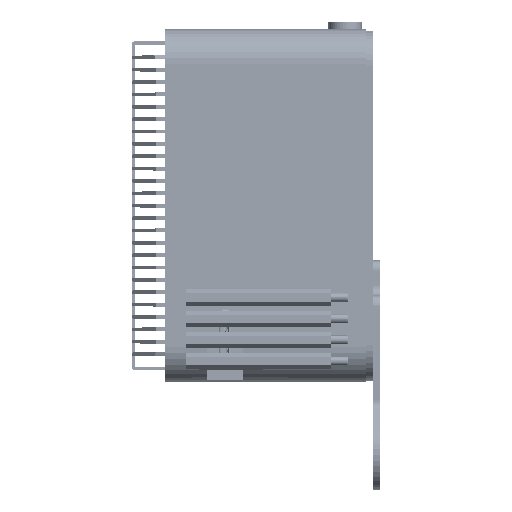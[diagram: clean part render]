
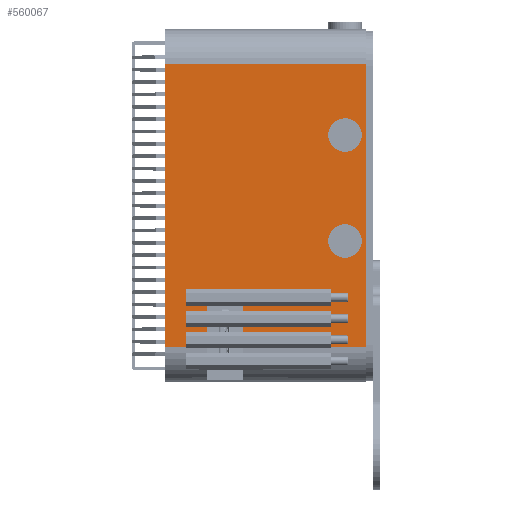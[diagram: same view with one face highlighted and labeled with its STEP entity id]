
A CAD part, left-side view. The second image highlights one B-rep face of the part: STEP entity #560067.
In plain terms, the highlighted planar face has unit normal (-1, 0, 0).
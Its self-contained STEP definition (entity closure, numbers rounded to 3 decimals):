
#555451=DIRECTION('',(0.,-1.,0.));
#555452=VECTOR('',#555451,57.);
#555453=CARTESIAN_POINT('',(0.,47.,-10.));
#555454=LINE('',#555453,#555452);
#555465=CARTESIAN_POINT('',(0.,26.5,-76.5));
#555466=DIRECTION('',(1.,0.,0.));
#555467=DIRECTION('',(0.,0.,1.));
#555468=AXIS2_PLACEMENT_3D('',#555465,#555466,#555467);
#555473=DIRECTION('',(0.,-1.,0.));
#555474=VECTOR('',#555473,7.);
#555475=CARTESIAN_POINT('',(0.,33.5,-75.));
#555476=LINE('',#555475,#555474);
#555480=CARTESIAN_POINT('',(0.,33.5,-76.5));
#555481=DIRECTION('',(1.,0.,0.));
#555482=DIRECTION('',(0.,1.,0.));
#555483=AXIS2_PLACEMENT_3D('',#555480,#555481,#555482);
#555488=DIRECTION('',(0.,0.,1.));
#555489=VECTOR('',#555488,13.5);
#555490=CARTESIAN_POINT('',(0.,35.,-90.));
#555491=LINE('',#555490,#555489);
#555495=DIRECTION('',(0.,0.,-1.));
#555496=VECTOR('',#555495,80.);
#555497=CARTESIAN_POINT('',(0.,47.,-10.));
#555498=LINE('',#555497,#555496);
#555502=DIRECTION('',(0.,0.,1.));
#555503=VECTOR('',#555502,80.);
#555504=CARTESIAN_POINT('',(0.,-10.,-90.));
#555505=LINE('',#555504,#555503);
#555509=DIRECTION('',(0.,0.,-1.));
#555510=VECTOR('',#555509,3.259);
#555511=CARTESIAN_POINT('',(0.,-6.725,-58.371));
#555512=LINE('',#555511,#555510);
#555516=CARTESIAN_POINT('',(0.,-4.,-60.));
#555517=DIRECTION('',(1.,0.,0.));
#555518=DIRECTION('',(0.,0.,1.));
#555519=AXIS2_PLACEMENT_3D('',#555516,#555517,#555518);
#555524=CARTESIAN_POINT('',(0.,-4.,-60.));
#555525=DIRECTION('',(1.,0.,0.));
#555526=DIRECTION('',(0.,0.,-1.));
#555527=AXIS2_PLACEMENT_3D('',#555524,#555525,#555526);
#555532=CARTESIAN_POINT('',(0.,-4.,-60.));
#555533=DIRECTION('',(1.,0.,0.));
#555534=DIRECTION('',(0.,-0.858,-0.513));
#555535=AXIS2_PLACEMENT_3D('',#555532,#555533,#555534);
#555540=DIRECTION('',(0.,0.,-1.));
#555541=VECTOR('',#555540,3.259);
#555542=CARTESIAN_POINT('',(0.,-6.725,-28.371));
#555543=LINE('',#555542,#555541);
#555547=CARTESIAN_POINT('',(0.,-4.,-30.));
#555548=DIRECTION('',(1.,0.,0.));
#555549=DIRECTION('',(0.,0.,1.));
#555550=AXIS2_PLACEMENT_3D('',#555547,#555548,#555549);
#555555=CARTESIAN_POINT('',(0.,-4.,-30.));
#555556=DIRECTION('',(1.,0.,0.));
#555557=DIRECTION('',(0.,0.,-1.));
#555558=AXIS2_PLACEMENT_3D('',#555555,#555556,#555557);
#555563=CARTESIAN_POINT('',(0.,-4.,-30.));
#555564=DIRECTION('',(1.,0.,0.));
#555565=DIRECTION('',(0.,-0.858,-0.513));
#555566=AXIS2_PLACEMENT_3D('',#555563,#555564,#555565);
#555578=DIRECTION('',(0.,1.,0.));
#555579=VECTOR('',#555578,12.);
#555580=CARTESIAN_POINT('',(0.,35.,-90.));
#555581=LINE('',#555580,#555579);
#555592=DIRECTION('',(0.,1.,0.));
#555593=VECTOR('',#555592,35.);
#555594=CARTESIAN_POINT('',(0.,-10.,-90.));
#555595=LINE('',#555594,#555593);
#558750=DIRECTION('',(0.,0.,1.));
#558751=VECTOR('',#558750,13.5);
#558752=CARTESIAN_POINT('',(0.,25.,-90.));
#558753=LINE('',#558752,#558751);
#559051=CARTESIAN_POINT('',(0.,-6.725,-58.371));
#559052=CARTESIAN_POINT('',(0.,-6.725,-61.629));
#559053=VERTEX_POINT('',#559051);
#559054=VERTEX_POINT('',#559052);
#559067=CARTESIAN_POINT('',(0.,-10.,-90.));
#559068=CARTESIAN_POINT('',(0.,-10.,-10.));
#559069=VERTEX_POINT('',#559067);
#559070=VERTEX_POINT('',#559068);
#559156=CARTESIAN_POINT('',(0.,47.,-90.));
#559158=VERTEX_POINT('',#559156);
#559175=CARTESIAN_POINT('',(0.,-4.,-33.175));
#559177=VERTEX_POINT('',#559175);
#559223=CARTESIAN_POINT('',(0.,26.5,-75.));
#559225=VERTEX_POINT('',#559223);
#559249=CARTESIAN_POINT('',(0.,35.,-76.5));
#559251=VERTEX_POINT('',#559249);
#559311=CARTESIAN_POINT('',(0.,25.,-76.5));
#559312=VERTEX_POINT('',#559311);
#559327=CARTESIAN_POINT('',(0.,-4.,-56.825));
#559329=VERTEX_POINT('',#559327);
#559359=CARTESIAN_POINT('',(0.,25.,-90.));
#559360=VERTEX_POINT('',#559359);
#559381=CARTESIAN_POINT('',(0.,35.,-90.));
#559382=VERTEX_POINT('',#559381);
#559383=CARTESIAN_POINT('',(0.,-6.725,-31.629));
#559384=VERTEX_POINT('',#559383);
#559395=CARTESIAN_POINT('',(0.,-6.725,-28.371));
#559396=VERTEX_POINT('',#559395);
#559399=CARTESIAN_POINT('',(0.,-4.,-26.825));
#559400=VERTEX_POINT('',#559399);
#559403=CARTESIAN_POINT('',(0.,47.,-10.));
#559404=VERTEX_POINT('',#559403);
#559437=CARTESIAN_POINT('',(0.,33.5,-75.));
#559438=VERTEX_POINT('',#559437);
#559439=CARTESIAN_POINT('',(0.,-4.,-63.175));
#559440=VERTEX_POINT('',#559439);
#560021=CARTESIAN_POINT('',(0.,48.,-90.));
#560022=DIRECTION('',(1.,0.,0.));
#560023=DIRECTION('',(0.,0.,-1.));
#560024=AXIS2_PLACEMENT_3D('',#560021,#560022,#560023);
#560025=PLANE('',#560024);
#560027=ORIENTED_EDGE('',*,*,#560026,.T.);
#560029=ORIENTED_EDGE('',*,*,#560028,.T.);
#560031=ORIENTED_EDGE('',*,*,#560030,.F.);
#560033=ORIENTED_EDGE('',*,*,#560032,.F.);
#560035=ORIENTED_EDGE('',*,*,#560034,.F.);
#560037=ORIENTED_EDGE('',*,*,#560036,.F.);
#560039=ORIENTED_EDGE('',*,*,#560038,.T.);
#560041=ORIENTED_EDGE('',*,*,#560040,.F.);
#560042=ORIENTED_EDGE('',*,*,#560011,.T.);
#560044=ORIENTED_EDGE('',*,*,#560043,.F.);
#560045=EDGE_LOOP('',(#560027,#560029,#560031,#560033,#560035,#560037,#560039,
#560041,#560042,#560044));
#560046=FACE_OUTER_BOUND('',#560045,.F.);
#560048=ORIENTED_EDGE('',*,*,#560047,.F.);
#560050=ORIENTED_EDGE('',*,*,#560049,.F.);
#560052=ORIENTED_EDGE('',*,*,#560051,.F.);
#560054=ORIENTED_EDGE('',*,*,#560053,.F.);
#560055=EDGE_LOOP('',(#560048,#560050,#560052,#560054));
#560056=FACE_BOUND('',#560055,.F.);
#560058=ORIENTED_EDGE('',*,*,#560057,.F.);
#560060=ORIENTED_EDGE('',*,*,#560059,.F.);
#560062=ORIENTED_EDGE('',*,*,#560061,.F.);
#560064=ORIENTED_EDGE('',*,*,#560063,.F.);
#560065=EDGE_LOOP('',(#560058,#560060,#560062,#560064));
#560066=FACE_BOUND('',#560065,.F.);
#555469=CIRCLE('',#555468,1.5);
#555484=CIRCLE('',#555483,1.5);
#555520=CIRCLE('',#555519,3.175);
#555528=CIRCLE('',#555527,3.175);
#555536=CIRCLE('',#555535,3.175);
#555551=CIRCLE('',#555550,3.175);
#555559=CIRCLE('',#555558,3.175);
#555567=CIRCLE('',#555566,3.175);
#560011=EDGE_CURVE('',#559404,#559070,#555454,.T.);
#560026=EDGE_CURVE('',#559069,#559360,#555595,.T.);
#560028=EDGE_CURVE('',#559360,#559312,#558753,.T.);
#560030=EDGE_CURVE('',#559225,#559312,#555469,.T.);
#560032=EDGE_CURVE('',#559438,#559225,#555476,.T.);
#560034=EDGE_CURVE('',#559251,#559438,#555484,.T.);
#560036=EDGE_CURVE('',#559382,#559251,#555491,.T.);
#560038=EDGE_CURVE('',#559382,#559158,#555581,.T.);
#560040=EDGE_CURVE('',#559404,#559158,#555498,.T.);
#560043=EDGE_CURVE('',#559069,#559070,#555505,.T.);
#560047=EDGE_CURVE('',#559053,#559054,#555512,.T.);
#560049=EDGE_CURVE('',#559329,#559053,#555520,.T.);
#560051=EDGE_CURVE('',#559440,#559329,#555528,.T.);
#560053=EDGE_CURVE('',#559054,#559440,#555536,.T.);
#560057=EDGE_CURVE('',#559396,#559384,#555543,.T.);
#560059=EDGE_CURVE('',#559400,#559396,#555551,.T.);
#560061=EDGE_CURVE('',#559177,#559400,#555559,.T.);
#560063=EDGE_CURVE('',#559384,#559177,#555567,.T.);
#560067=ADVANCED_FACE('',(#560046,#560056,#560066),#560025,.F.);
